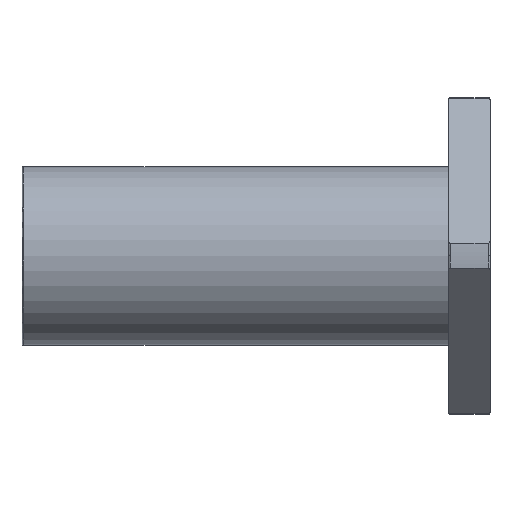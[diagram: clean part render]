
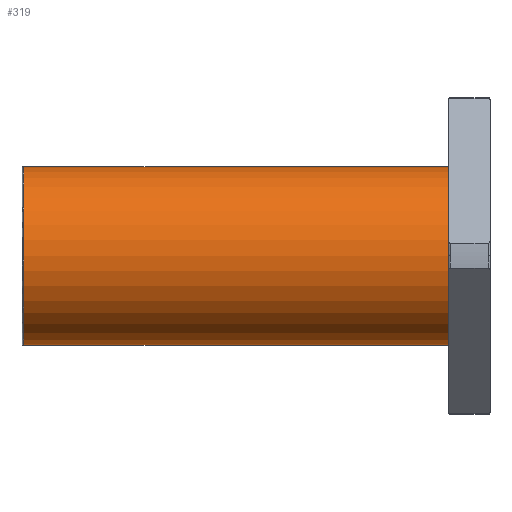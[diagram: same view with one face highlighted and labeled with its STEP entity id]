
A CAD part, top view. The second image highlights one B-rep face of the part: STEP entity #319.
In plain terms, the highlighted cylindrical face has radius 13 mm (diameter 26 mm), a partial arc.
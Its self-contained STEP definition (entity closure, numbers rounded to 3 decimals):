
#319 = ADVANCED_FACE('',(#320),#334,.T.);
#320 = FACE_BOUND('',#321,.T.);
#321 = EDGE_LOOP('',(#322,#357,#386,#415,#438));
#322 = ORIENTED_EDGE('',*,*,#323,.F.);
#323 = EDGE_CURVE('',#324,#326,#328,.T.);
#324 = VERTEX_POINT('',#325);
#325 = CARTESIAN_POINT('',(-67.75,13.,0.));
#326 = VERTEX_POINT('',#327);
#327 = CARTESIAN_POINT('',(-6.,13.,0.));
#328 = SURFACE_CURVE('',#329,(#333,#345),.PCURVE_S1.);
#329 = LINE('',#330,#331);
#330 = CARTESIAN_POINT('',(-36.875,13.,0.));
#331 = VECTOR('',#332,1.);
#332 = DIRECTION('',(1.,0.,0.));
#333 = PCURVE('',#334,#339);
#334 = CYLINDRICAL_SURFACE('',#335,13.);
#335 = AXIS2_PLACEMENT_3D('',#336,#337,#338);
#336 = CARTESIAN_POINT('',(-36.875,0.,0.));
#337 = DIRECTION('',(1.,0.,0.));
#338 = DIRECTION('',(-0.,1.,0.));
#339 = DEFINITIONAL_REPRESENTATION('',(#340),#344);
#340 = LINE('',#341,#342);
#341 = CARTESIAN_POINT('',(0.,0.));
#342 = VECTOR('',#343,1.);
#343 = DIRECTION('',(0.,1.));
#344 = ( GEOMETRIC_REPRESENTATION_CONTEXT(2) 
PARAMETRIC_REPRESENTATION_CONTEXT() REPRESENTATION_CONTEXT('2D SPACE',''
  ) );
#345 = PCURVE('',#346,#351);
#346 = CYLINDRICAL_SURFACE('',#347,13.);
#347 = AXIS2_PLACEMENT_3D('',#348,#349,#350);
#348 = CARTESIAN_POINT('',(-36.875,0.,0.));
#349 = DIRECTION('',(1.,0.,0.));
#350 = DIRECTION('',(-0.,1.,0.));
#351 = DEFINITIONAL_REPRESENTATION('',(#352),#356);
#352 = LINE('',#353,#354);
#353 = CARTESIAN_POINT('',(6.283,0.));
#354 = VECTOR('',#355,1.);
#355 = DIRECTION('',(0.,1.));
#356 = ( GEOMETRIC_REPRESENTATION_CONTEXT(2) 
PARAMETRIC_REPRESENTATION_CONTEXT() REPRESENTATION_CONTEXT('2D SPACE',''
  ) );
#357 = ORIENTED_EDGE('',*,*,#358,.T.);
#358 = EDGE_CURVE('',#324,#359,#361,.T.);
#359 = VERTEX_POINT('',#360);
#360 = CARTESIAN_POINT('',(-67.75,0.,13.));
#361 = SURFACE_CURVE('',#362,(#367,#374),.PCURVE_S1.);
#362 = CIRCLE('',#363,13.);
#363 = AXIS2_PLACEMENT_3D('',#364,#365,#366);
#364 = CARTESIAN_POINT('',(-67.75,0.,0.));
#365 = DIRECTION('',(1.,0.,0.));
#366 = DIRECTION('',(-0.,1.,0.));
#367 = PCURVE('',#334,#368);
#368 = DEFINITIONAL_REPRESENTATION('',(#369),#373);
#369 = LINE('',#370,#371);
#370 = CARTESIAN_POINT('',(0.,-30.875));
#371 = VECTOR('',#372,1.);
#372 = DIRECTION('',(1.,0.));
#373 = ( GEOMETRIC_REPRESENTATION_CONTEXT(2) 
PARAMETRIC_REPRESENTATION_CONTEXT() REPRESENTATION_CONTEXT('2D SPACE',''
  ) );
#374 = PCURVE('',#375,#380);
#375 = TOROIDAL_SURFACE('',#376,12.75,0.25);
#376 = AXIS2_PLACEMENT_3D('',#377,#378,#379);
#377 = CARTESIAN_POINT('',(-67.75,0.,0.));
#378 = DIRECTION('',(1.,0.,0.));
#379 = DIRECTION('',(0.,0.,-1.));
#380 = DEFINITIONAL_REPRESENTATION('',(#381),#385);
#381 = LINE('',#382,#383);
#382 = CARTESIAN_POINT('',(1.571,6.283));
#383 = VECTOR('',#384,1.);
#384 = DIRECTION('',(1.,0.));
#385 = ( GEOMETRIC_REPRESENTATION_CONTEXT(2) 
PARAMETRIC_REPRESENTATION_CONTEXT() REPRESENTATION_CONTEXT('2D SPACE',''
  ) );
#386 = ORIENTED_EDGE('',*,*,#387,.T.);
#387 = EDGE_CURVE('',#359,#388,#390,.T.);
#388 = VERTEX_POINT('',#389);
#389 = CARTESIAN_POINT('',(-67.75,-13.,0.));
#390 = SURFACE_CURVE('',#391,(#396,#403),.PCURVE_S1.);
#391 = CIRCLE('',#392,13.);
#392 = AXIS2_PLACEMENT_3D('',#393,#394,#395);
#393 = CARTESIAN_POINT('',(-67.75,0.,0.));
#394 = DIRECTION('',(1.,0.,0.));
#395 = DIRECTION('',(-0.,1.,0.));
#396 = PCURVE('',#334,#397);
#397 = DEFINITIONAL_REPRESENTATION('',(#398),#402);
#398 = LINE('',#399,#400);
#399 = CARTESIAN_POINT('',(0.,-30.875));
#400 = VECTOR('',#401,1.);
#401 = DIRECTION('',(1.,0.));
#402 = ( GEOMETRIC_REPRESENTATION_CONTEXT(2) 
PARAMETRIC_REPRESENTATION_CONTEXT() REPRESENTATION_CONTEXT('2D SPACE',''
  ) );
#403 = PCURVE('',#404,#409);
#404 = TOROIDAL_SURFACE('',#405,12.75,0.25);
#405 = AXIS2_PLACEMENT_3D('',#406,#407,#408);
#406 = CARTESIAN_POINT('',(-67.75,0.,0.));
#407 = DIRECTION('',(1.,0.,0.));
#408 = DIRECTION('',(0.,0.,-1.));
#409 = DEFINITIONAL_REPRESENTATION('',(#410),#414);
#410 = LINE('',#411,#412);
#411 = CARTESIAN_POINT('',(1.571,6.283));
#412 = VECTOR('',#413,1.);
#413 = DIRECTION('',(1.,0.));
#414 = ( GEOMETRIC_REPRESENTATION_CONTEXT(2) 
PARAMETRIC_REPRESENTATION_CONTEXT() REPRESENTATION_CONTEXT('2D SPACE',''
  ) );
#415 = ORIENTED_EDGE('',*,*,#416,.F.);
#416 = EDGE_CURVE('',#417,#388,#419,.T.);
#417 = VERTEX_POINT('',#418);
#418 = CARTESIAN_POINT('',(-6.,-13.,0.));
#419 = SURFACE_CURVE('',#420,(#424,#431),.PCURVE_S1.);
#420 = LINE('',#421,#422);
#421 = CARTESIAN_POINT('',(-36.875,-13.,0.));
#422 = VECTOR('',#423,1.);
#423 = DIRECTION('',(-1.,-0.,-0.));
#424 = PCURVE('',#334,#425);
#425 = DEFINITIONAL_REPRESENTATION('',(#426),#430);
#426 = LINE('',#427,#428);
#427 = CARTESIAN_POINT('',(3.142,0.));
#428 = VECTOR('',#429,1.);
#429 = DIRECTION('',(0.,-1.));
#430 = ( GEOMETRIC_REPRESENTATION_CONTEXT(2) 
PARAMETRIC_REPRESENTATION_CONTEXT() REPRESENTATION_CONTEXT('2D SPACE',''
  ) );
#431 = PCURVE('',#346,#432);
#432 = DEFINITIONAL_REPRESENTATION('',(#433),#437);
#433 = LINE('',#434,#435);
#434 = CARTESIAN_POINT('',(3.142,0.));
#435 = VECTOR('',#436,1.);
#436 = DIRECTION('',(0.,-1.));
#437 = ( GEOMETRIC_REPRESENTATION_CONTEXT(2) 
PARAMETRIC_REPRESENTATION_CONTEXT() REPRESENTATION_CONTEXT('2D SPACE',''
  ) );
#438 = ORIENTED_EDGE('',*,*,#439,.F.);
#439 = EDGE_CURVE('',#326,#417,#440,.T.);
#440 = SURFACE_CURVE('',#441,(#446,#453),.PCURVE_S1.);
#441 = CIRCLE('',#442,13.);
#442 = AXIS2_PLACEMENT_3D('',#443,#444,#445);
#443 = CARTESIAN_POINT('',(-6.,0.,0.));
#444 = DIRECTION('',(1.,0.,0.));
#445 = DIRECTION('',(-0.,1.,0.));
#446 = PCURVE('',#334,#447);
#447 = DEFINITIONAL_REPRESENTATION('',(#448),#452);
#448 = LINE('',#449,#450);
#449 = CARTESIAN_POINT('',(0.,30.875));
#450 = VECTOR('',#451,1.);
#451 = DIRECTION('',(1.,0.));
#452 = ( GEOMETRIC_REPRESENTATION_CONTEXT(2) 
PARAMETRIC_REPRESENTATION_CONTEXT() REPRESENTATION_CONTEXT('2D SPACE',''
  ) );
#453 = PCURVE('',#454,#459);
#454 = PLANE('',#455);
#455 = AXIS2_PLACEMENT_3D('',#456,#457,#458);
#456 = CARTESIAN_POINT('',(-6.,17.88,0.));
#457 = DIRECTION('',(-1.,0.,0.));
#458 = DIRECTION('',(0.,-1.,0.));
#459 = DEFINITIONAL_REPRESENTATION('',(#460),#468);
#460 = ( BOUNDED_CURVE() B_SPLINE_CURVE(2,(#461,#462,#463,#464,#465,#466
,#467),.UNSPECIFIED.,.T.,.F.) B_SPLINE_CURVE_WITH_KNOTS((1,2,2,2,2,1),(
    -2.094,0.,2.094,4.189,6.283,
8.378),.UNSPECIFIED.) CURVE() GEOMETRIC_REPRESENTATION_ITEM() 
RATIONAL_B_SPLINE_CURVE((1.,0.5,1.,0.5,1.,0.5,1.)) REPRESENTATION_ITEM(
  '') );
#461 = CARTESIAN_POINT('',(4.88,0.));
#462 = CARTESIAN_POINT('',(4.88,22.517));
#463 = CARTESIAN_POINT('',(24.38,11.258));
#464 = CARTESIAN_POINT('',(43.88,0.));
#465 = CARTESIAN_POINT('',(24.38,-11.258));
#466 = CARTESIAN_POINT('',(4.88,-22.517));
#467 = CARTESIAN_POINT('',(4.88,0.));
#468 = ( GEOMETRIC_REPRESENTATION_CONTEXT(2) 
PARAMETRIC_REPRESENTATION_CONTEXT() REPRESENTATION_CONTEXT('2D SPACE',''
  ) );
